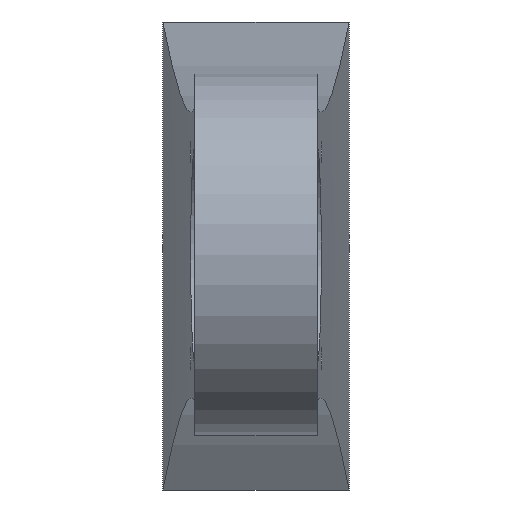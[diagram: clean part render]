
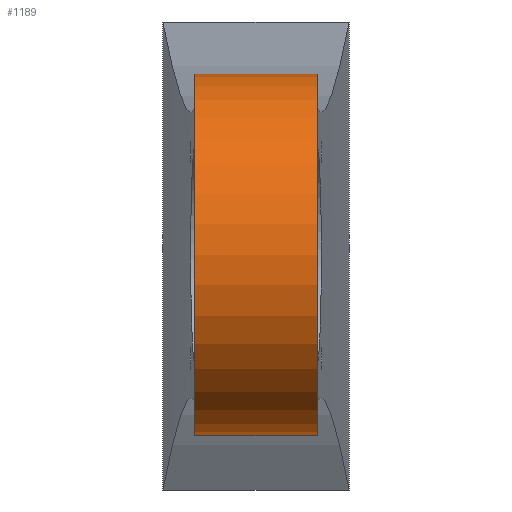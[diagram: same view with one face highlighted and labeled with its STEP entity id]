
A CAD part, top view. The second image highlights one B-rep face of the part: STEP entity #1189.
In plain terms, the highlighted cylindrical face has radius 68 mm (diameter 136 mm), a partial arc.
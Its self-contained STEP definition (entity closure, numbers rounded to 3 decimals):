
#32 = B_SPLINE_SURFACE_WITH_KNOTS('',1,2,(
    (#33,#34,#35)
    ,(#36,#37,#38
    )),.UNSPECIFIED.,.F.,.F.,.F.,(2,2),(3,3),(0.,1.),(0.,1.),
  .PIECEWISE_BEZIER_KNOTS.);
#33 = CARTESIAN_POINT('',(-35.,-88.,-155.));
#34 = CARTESIAN_POINT('',(-27.,-46.5,-26.));
#35 = CARTESIAN_POINT('',(-23.,-55.,87.));
#36 = CARTESIAN_POINT('',(35.,-88.,-155.));
#37 = CARTESIAN_POINT('',(27.,-46.5,-26.));
#38 = CARTESIAN_POINT('',(23.,-55.,87.));
#117 = VERTEX_POINT('',#118);
#118 = CARTESIAN_POINT('',(23.,-53.563,45.108));
#140 = PLANE('',#141);
#141 = AXIS2_PLACEMENT_3D('',#142,#143,#144);
#142 = CARTESIAN_POINT('',(23.,0.,87.));
#143 = DIRECTION('',(1.,0.,0.));
#144 = DIRECTION('',(-0.,0.,1.));
#156 = EDGE_CURVE('',#117,#157,#159,.T.);
#157 = VERTEX_POINT('',#158);
#158 = CARTESIAN_POINT('',(-23.,-53.563,45.108));
#159 = SURFACE_CURVE('',#160,(#166,#175),.PCURVE_S1.);
#160 = B_SPLINE_CURVE_WITH_KNOTS('',4,(#161,#162,#163,#164,#165),
  .UNSPECIFIED.,.F.,.F.,(5,5),(0.,1.),.PIECEWISE_BEZIER_KNOTS.);
#161 = CARTESIAN_POINT('',(23.,-53.563,45.108));
#162 = CARTESIAN_POINT('',(11.5,-53.563,45.108));
#163 = CARTESIAN_POINT('',(0.,-53.563,
    45.108));
#164 = CARTESIAN_POINT('',(-11.5,-53.563,45.108)
  );
#165 = CARTESIAN_POINT('',(-23.,-53.563,45.108)
  );
#166 = PCURVE('',#32,#167);
#167 = DEFINITIONAL_REPRESENTATION('',(#168),#174);
#168 = B_SPLINE_CURVE_WITH_KNOTS('',4,(#169,#170,#171,#172,#173),
  .UNSPECIFIED.,.F.,.F.,(5,5),(0.,1.),.PIECEWISE_BEZIER_KNOTS.);
#169 = CARTESIAN_POINT('',(0.968,0.817));
#170 = CARTESIAN_POINT('',(0.734,0.817));
#171 = CARTESIAN_POINT('',(0.5,0.817));
#172 = CARTESIAN_POINT('',(0.266,0.817));
#173 = CARTESIAN_POINT('',(0.032,0.817));
#174 = ( GEOMETRIC_REPRESENTATION_CONTEXT(2) 
PARAMETRIC_REPRESENTATION_CONTEXT() REPRESENTATION_CONTEXT('2D SPACE',''
  ) );
#175 = PCURVE('',#176,#181);
#176 = CYLINDRICAL_SURFACE('',#177,68.);
#177 = AXIS2_PLACEMENT_3D('',#178,#179,#180);
#178 = CARTESIAN_POINT('',(-23.,0.,87.));
#179 = DIRECTION('',(-1.,-0.,-0.));
#180 = DIRECTION('',(0.,1.,0.));
#181 = DEFINITIONAL_REPRESENTATION('',(#182),#188);
#182 = B_SPLINE_CURVE_WITH_KNOTS('',4,(#183,#184,#185,#186,#187),
  .UNSPECIFIED.,.F.,.F.,(5,5),(0.,1.),.PIECEWISE_BEZIER_KNOTS.);
#183 = CARTESIAN_POINT('',(-10.089,-46.));
#184 = CARTESIAN_POINT('',(-10.089,-34.5));
#185 = CARTESIAN_POINT('',(-10.089,-23.));
#186 = CARTESIAN_POINT('',(-10.089,-11.5));
#187 = CARTESIAN_POINT('',(-10.089,0.));
#188 = ( GEOMETRIC_REPRESENTATION_CONTEXT(2) 
PARAMETRIC_REPRESENTATION_CONTEXT() REPRESENTATION_CONTEXT('2D SPACE',''
  ) );
#212 = PLANE('',#213);
#213 = AXIS2_PLACEMENT_3D('',#214,#215,#216);
#214 = CARTESIAN_POINT('',(-23.,0.,87.));
#215 = DIRECTION('',(1.,0.,0.));
#216 = DIRECTION('',(-0.,0.,1.));
#249 = B_SPLINE_SURFACE_WITH_KNOTS('',1,2,(
    (#250,#251,#252)
    ,(#253,#254,#255
    )),.UNSPECIFIED.,.F.,.F.,.F.,(2,2),(3,3),(2.,3.),(0.,1.),
  .PIECEWISE_BEZIER_KNOTS.);
#250 = CARTESIAN_POINT('',(35.,88.,-155.));
#251 = CARTESIAN_POINT('',(27.,46.5,-26.));
#252 = CARTESIAN_POINT('',(23.,55.,87.));
#253 = CARTESIAN_POINT('',(-35.,88.,-155.));
#254 = CARTESIAN_POINT('',(-27.,46.5,-26.));
#255 = CARTESIAN_POINT('',(-23.,55.,87.));
#1031 = VERTEX_POINT('',#1032);
#1032 = CARTESIAN_POINT('',(-23.,53.563,45.108));
#1065 = EDGE_CURVE('',#157,#1031,#1066,.T.);
#1066 = SURFACE_CURVE('',#1067,(#1072,#1083),.PCURVE_S1.);
#1067 = CIRCLE('',#1068,68.);
#1068 = AXIS2_PLACEMENT_3D('',#1069,#1070,#1071);
#1069 = CARTESIAN_POINT('',(-23.,0.,87.));
#1070 = DIRECTION('',(-1.,-0.,0.));
#1071 = DIRECTION('',(0.,-0.788,-0.616));
#1072 = PCURVE('',#212,#1073);
#1073 = DEFINITIONAL_REPRESENTATION('',(#1074),#1082);
#1074 = ( BOUNDED_CURVE() B_SPLINE_CURVE(2,(#1075,#1076,#1077,#1078,
#1079,#1080,#1081),.UNSPECIFIED.,.T.,.F.) B_SPLINE_CURVE_WITH_KNOTS((1,2
    ,2,2,2,1),(-2.094,0.,2.094,4.189,
6.283,8.378),.UNSPECIFIED.) CURVE() 
GEOMETRIC_REPRESENTATION_ITEM() RATIONAL_B_SPLINE_CURVE((1.,0.5,1.,0.5,
1.,0.5,1.)) REPRESENTATION_ITEM('') );
#1075 = CARTESIAN_POINT('',(-41.892,53.563));
#1076 = CARTESIAN_POINT('',(50.882,126.123));
#1077 = CARTESIAN_POINT('',(67.333,9.498));
#1078 = CARTESIAN_POINT('',(83.784,-107.127));
#1079 = CARTESIAN_POINT('',(-25.441,-63.061));
#1080 = CARTESIAN_POINT('',(-134.667,-18.996));
#1081 = CARTESIAN_POINT('',(-41.892,53.563));
#1082 = ( GEOMETRIC_REPRESENTATION_CONTEXT(2) 
PARAMETRIC_REPRESENTATION_CONTEXT() REPRESENTATION_CONTEXT('2D SPACE',''
  ) );
#1083 = PCURVE('',#176,#1084);
#1084 = DEFINITIONAL_REPRESENTATION('',(#1085),#1089);
#1085 = LINE('',#1086,#1087);
#1086 = CARTESIAN_POINT('',(-10.089,0.));
#1087 = VECTOR('',#1088,1.);
#1088 = DIRECTION('',(1.,-0.));
#1089 = ( GEOMETRIC_REPRESENTATION_CONTEXT(2) 
PARAMETRIC_REPRESENTATION_CONTEXT() REPRESENTATION_CONTEXT('2D SPACE',''
  ) );
#1189 = ADVANCED_FACE('',(#1190),#176,.T.);
#1190 = FACE_BOUND('',#1191,.F.);
#1191 = EDGE_LOOP('',(#1192,#1193,#1222,#1248));
#1192 = ORIENTED_EDGE('',*,*,#1065,.T.);
#1193 = ORIENTED_EDGE('',*,*,#1194,.T.);
#1194 = EDGE_CURVE('',#1031,#1195,#1197,.T.);
#1195 = VERTEX_POINT('',#1196);
#1196 = CARTESIAN_POINT('',(23.,53.563,45.108));
#1197 = SURFACE_CURVE('',#1198,(#1204,#1213),.PCURVE_S1.);
#1198 = B_SPLINE_CURVE_WITH_KNOTS('',4,(#1199,#1200,#1201,#1202,#1203),
  .UNSPECIFIED.,.F.,.F.,(5,5),(0.,1.),.PIECEWISE_BEZIER_KNOTS.);
#1199 = CARTESIAN_POINT('',(-23.,53.563,45.108)
  );
#1200 = CARTESIAN_POINT('',(-11.5,53.563,45.108)
  );
#1201 = CARTESIAN_POINT('',(0.,53.563,
    45.108));
#1202 = CARTESIAN_POINT('',(11.5,53.563,45.108)
  );
#1203 = CARTESIAN_POINT('',(23.,53.563,45.108)
  );
#1204 = PCURVE('',#176,#1205);
#1205 = DEFINITIONAL_REPRESENTATION('',(#1206),#1212);
#1206 = B_SPLINE_CURVE_WITH_KNOTS('',4,(#1207,#1208,#1209,#1210,#1211),
  .UNSPECIFIED.,.F.,.F.,(5,5),(0.,1.),.PIECEWISE_BEZIER_KNOTS.);
#1207 = CARTESIAN_POINT('',(-5.619,0.));
#1208 = CARTESIAN_POINT('',(-5.619,-11.5));
#1209 = CARTESIAN_POINT('',(-5.619,-23.));
#1210 = CARTESIAN_POINT('',(-5.619,-34.5));
#1211 = CARTESIAN_POINT('',(-5.619,-46.));
#1212 = ( GEOMETRIC_REPRESENTATION_CONTEXT(2) 
PARAMETRIC_REPRESENTATION_CONTEXT() REPRESENTATION_CONTEXT('2D SPACE',''
  ) );
#1213 = PCURVE('',#249,#1214);
#1214 = DEFINITIONAL_REPRESENTATION('',(#1215),#1221);
#1215 = B_SPLINE_CURVE_WITH_KNOTS('',4,(#1216,#1217,#1218,#1219,#1220),
  .UNSPECIFIED.,.F.,.F.,(5,5),(0.,1.),.PIECEWISE_BEZIER_KNOTS.);
#1216 = CARTESIAN_POINT('',(2.968,0.817));
#1217 = CARTESIAN_POINT('',(2.734,0.817));
#1218 = CARTESIAN_POINT('',(2.5,0.817));
#1219 = CARTESIAN_POINT('',(2.266,0.817));
#1220 = CARTESIAN_POINT('',(2.032,0.817));
#1221 = ( GEOMETRIC_REPRESENTATION_CONTEXT(2) 
PARAMETRIC_REPRESENTATION_CONTEXT() REPRESENTATION_CONTEXT('2D SPACE',''
  ) );
#1222 = ORIENTED_EDGE('',*,*,#1223,.F.);
#1223 = EDGE_CURVE('',#117,#1195,#1224,.T.);
#1224 = SURFACE_CURVE('',#1225,(#1230,#1237),.PCURVE_S1.);
#1225 = CIRCLE('',#1226,68.);
#1226 = AXIS2_PLACEMENT_3D('',#1227,#1228,#1229);
#1227 = CARTESIAN_POINT('',(23.,0.,87.));
#1228 = DIRECTION('',(-1.,-0.,0.));
#1229 = DIRECTION('',(0.,-0.788,-0.616));
#1230 = PCURVE('',#176,#1231);
#1231 = DEFINITIONAL_REPRESENTATION('',(#1232),#1236);
#1232 = LINE('',#1233,#1234);
#1233 = CARTESIAN_POINT('',(-10.089,-46.));
#1234 = VECTOR('',#1235,1.);
#1235 = DIRECTION('',(1.,-0.));
#1236 = ( GEOMETRIC_REPRESENTATION_CONTEXT(2) 
PARAMETRIC_REPRESENTATION_CONTEXT() REPRESENTATION_CONTEXT('2D SPACE',''
  ) );
#1237 = PCURVE('',#140,#1238);
#1238 = DEFINITIONAL_REPRESENTATION('',(#1239),#1247);
#1239 = ( BOUNDED_CURVE() B_SPLINE_CURVE(2,(#1240,#1241,#1242,#1243,
#1244,#1245,#1246),.UNSPECIFIED.,.T.,.F.) B_SPLINE_CURVE_WITH_KNOTS((1,2
    ,2,2,2,1),(-2.094,0.,2.094,4.189,
6.283,8.378),.UNSPECIFIED.) CURVE() 
GEOMETRIC_REPRESENTATION_ITEM() RATIONAL_B_SPLINE_CURVE((1.,0.5,1.,0.5,
1.,0.5,1.)) REPRESENTATION_ITEM('') );
#1240 = CARTESIAN_POINT('',(-41.892,53.563));
#1241 = CARTESIAN_POINT('',(50.882,126.123));
#1242 = CARTESIAN_POINT('',(67.333,9.498));
#1243 = CARTESIAN_POINT('',(83.784,-107.127));
#1244 = CARTESIAN_POINT('',(-25.441,-63.061));
#1245 = CARTESIAN_POINT('',(-134.667,-18.996));
#1246 = CARTESIAN_POINT('',(-41.892,53.563));
#1247 = ( GEOMETRIC_REPRESENTATION_CONTEXT(2) 
PARAMETRIC_REPRESENTATION_CONTEXT() REPRESENTATION_CONTEXT('2D SPACE',''
  ) );
#1248 = ORIENTED_EDGE('',*,*,#156,.T.);
